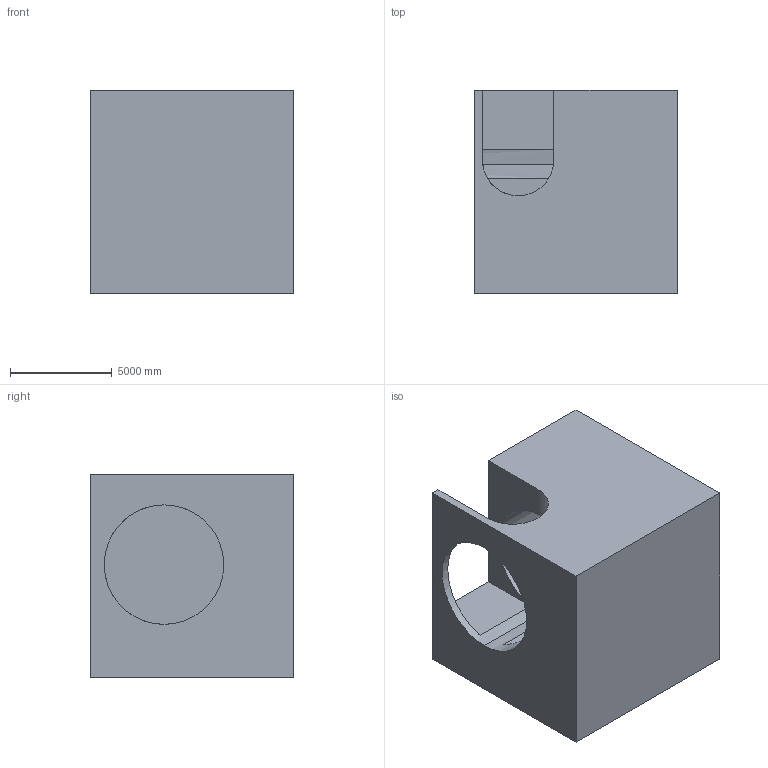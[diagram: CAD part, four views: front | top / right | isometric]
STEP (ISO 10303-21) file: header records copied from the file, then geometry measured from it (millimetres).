
FILE_DESCRIPTION (( 'STEP AP203' ), '1' );
FILE_NAME ('100.STEP', '2022-09-06T13:16:08', ( 'user' ), ( '' ), 'SwSTEP 2.0', 'SolidWorks 2021', '' );
FILE_SCHEMA (( 'CONFIG_CONTROL_DESIGN' ));
Length unit declared in the file: centimetre
Products named in the file (1): 100
Bounding box: 10000 x 10000 x 10000 mm (x, y, z)
Volume: 747550013410.1 mm3; surface area: 705106635.9 mm2
Topology: 1 solids, 1 shells, 15 faces, 39 edges, 26 vertices
Faces by surface type: plane 11, cylinder 4
Entity records: 812 total; most frequent: CARTESIAN_POINT 359, ORIENTED_EDGE 78, DIRECTION 75, EDGE_CURVE 39, VECTOR 27, LINE 27, VERTEX_POINT 26, AXIS2_PLACEMENT_3D 24
